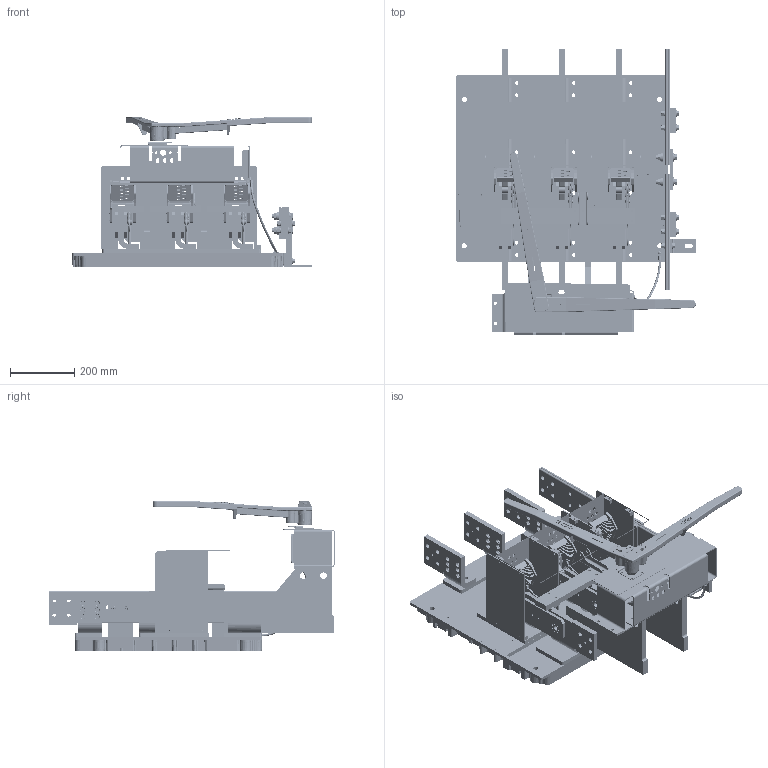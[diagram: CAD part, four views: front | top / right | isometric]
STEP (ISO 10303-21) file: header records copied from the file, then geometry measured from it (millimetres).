
FILE_DESCRIPTION(/* description */ (''),/* implementation_level */ '2;1');
FILE_NAME(/* name */ 'H:\switches\3d-templates\catalog-switches-iges-files\CATALOG-VLB4411N.stp',/* time_stamp */ '2022-03-14T14:46:55-05:00',/* author */ ('MKingston'),/* organization */ (''),/* preprocessor_version */ 'ST-DEVELOPER v18.1',/* originating_system */ 'Autodesk Inventor 2022',/* authorisation */ '');
FILE_SCHEMA (('AUTOMOTIVE_DESIGN { 1 0 10303 214 3 1 1 }'));
Products named in the file (70): vlb3411; 277-bf; 670-cb; 670-db; 670-EB; CATALOG-58-qd-arc-chute-assy; 50-ql; 50-qr; 363-a; 363-b; 58-QG; ANSI B18.6.3 - No. 8 - 32 - 5/8; ANSI B18.6.3 - No. 8 - 32 - 1/2; ANSI B18.6.3 - No. 8 - 32 - 3; CATALOG-2500amp-blade-assy; 67-fc3; 69-gc3; 670-AR; 670-AL; 70-M; 67-H; 67-j; ANSI/ASME B18.7 - T 0.252 x 17/32; ANSI/ASME B18.7 - T 0.188 x 17/32; 235-b; 230-a; vlb-interpole-right-side-assy; vlb-interpole-assy; 256-b; 178-b; 178-c; 256-d; 256-c; 246-f; 820-bw1; 820-fw3; 221-RP,R3; 2500-VLB-NEUTRAL-NO-GFI; 675-a; 675-ff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
Assembly tree (148 placements, depth 4):
  vlb3411
    277-bf
    670-cb  x3
    670-db  x3
    670-EB  x3
    CATALOG-58-qd-arc-chute-assy  x3
      50-ql
      50-qr
      363-a
      363-b
      58-QG
      ANSI B18.6.3 - No. 8 - 32 - 5/8
      ANSI B18.6.3 - No. 8 - 32 - 1/2
      ANSI B18.6.3 - No. 8 - 32 - 3
    CATALOG-2500amp-blade-assy  x3
      67-fc3
      69-gc3
      67-j
      670-AR
      670-AL
      70-M
      67-H
      ANSI/ASME B18.7 - T 0.252 x 17/32
      ANSI/ASME B18.7 - T 0.188 x 17/32
    235-b
    230-a
    vlb-interpole-right-side-assy  x2
      256-b
      178-b
      178-c
    vlb-interpole-assy  x2
      256-b
      178-b
      178-c
    256-d
    256-c
    246-f  x2
    820-bw1
    820-fw3
    221-RP,R3
    2500-VLB-NEUTRAL-NO-GFI
      675-a  x2
      675-ff  x2
      676-s  x4
      678-r
      677-e  x2
      Bolted Connection
        ASTM F436 - 1/2, CW  x8
        ANSI B18.2.1 - 1/2-13 UNC - 2.25, HCSI  x4
        ASME B18.21.1 - 1/2, RHSLW  x4
        AS 2465 - 1/2  UNC  x4
      Bolted Connection_1
        ASTM F436 - 3/8, CW  x4
        ANSI B18.2.1 - 3/8-16 UNC - 2, HCSI  x4
        ANSI B18.22.1 - 3/8 - narrow - Type A  x4
        ANSI B18.21.1 - 0.375  x4
        ANSI B18.2.2 - 3/8 - 16, HNI  x4
      Bolted Connection_2
        ASTM F436 - 3/8, CW
        ANSI B18.2.1 - 3/8-16 UNC - 1.5, HCSI
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Bounding box: 747.67 x 890.28 x 467.84 mm (x, y, z)
Volume: 22019612.8 mm3; surface area: 4805697.4 mm2
Topology: 195 solids, 197 shells, 5951 faces, 14910 edges, 9670 vertices
Faces by surface type: plane 2872, cylinder 1649, cone 1057, torus 193, bspline 151, sphere 29
Full cylindrical faces by diameter (mm): 1.702 x8, 3.175 x4, 3.302 x26, 3.454 x4, 3.683 x8, 3.962 x4, 4.166 x17, 4.496 x24, 4.762 x46, 4.775 x11, 4.801 x8, 4.902 x14, 4.915 x24, 4.978 x9, 5.08 x2, 5.537 x2, 5.556 x3, 5.791 x6, 6.35 x7, 6.401 x9, 6.528 x54, 7.144 x18, 7.798 x11, 7.938 x6, 8.077 x3, 8.179 x16, 8.331 x2, 8.687 x2, 8.731 x2, 9.525 x9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
Entity records: 108489 total; most frequent: CARTESIAN_POINT 27385, DIRECTION 16611, ORIENTED_EDGE 16108, EDGE_CURVE 8065, AXIS2_PLACEMENT_3D 6145, VERTEX_POINT 5275, LINE 4321, VECTOR 4321
